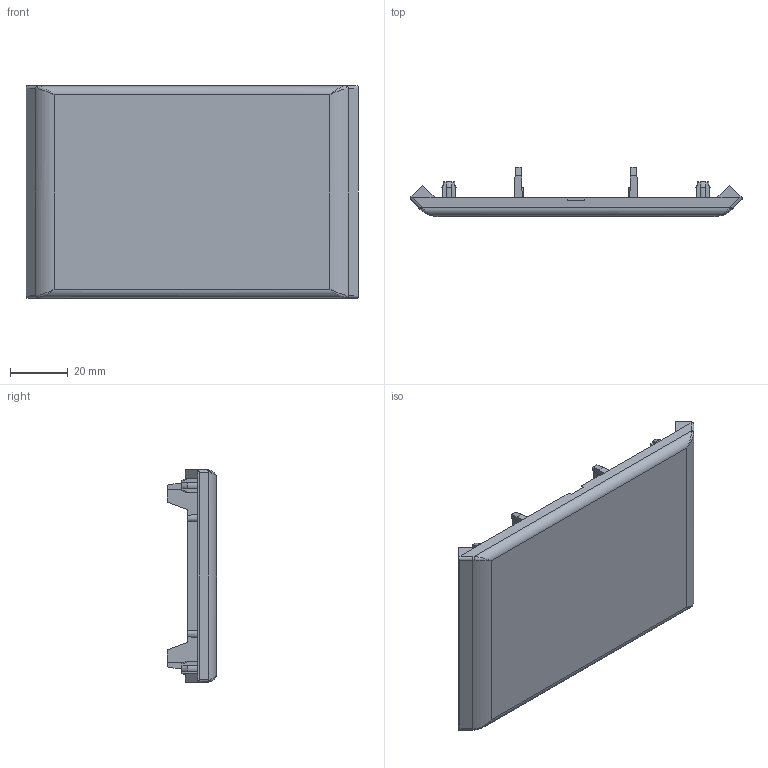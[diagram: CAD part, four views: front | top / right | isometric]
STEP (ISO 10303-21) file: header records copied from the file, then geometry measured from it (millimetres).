
FILE_DESCRIPTION (( 'STEP AP203' ), '1' );
FILE_NAME ('093WA806S03.step', '2016-01-11T13:13:57', ( '' ), ( '' ), 'SwSTEP 2.0', 'SolidWorks 2015', '' );
FILE_SCHEMA (( 'CONFIG_CONTROL_DESIGN' ));
Length unit declared in the file: millimetre
Products named in the file (1): 093WA806S03
Bounding box: 115 x 17 x 73.6 mm (x, y, z)
Volume: 29894 mm3; surface area: 22504.3 mm2
Topology: 1 solids, 1 shells, 409 faces, 1153 edges, 758 vertices
Faces by surface type: plane 325, cylinder 44, cone 28, bspline 12
Entity records: 13422 total; most frequent: CARTESIAN_POINT 2927, ORIENTED_EDGE 2298, DIRECTION 1969, EDGE_CURVE 1149, LINE 945, VECTOR 945, VERTEX_POINT 758, AXIS2_PLACEMENT_3D 512
